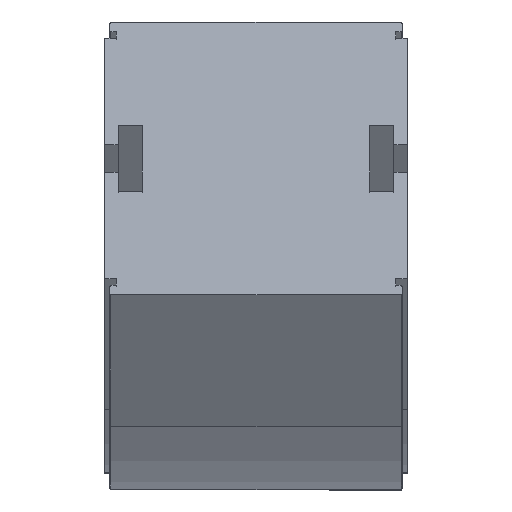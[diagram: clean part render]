
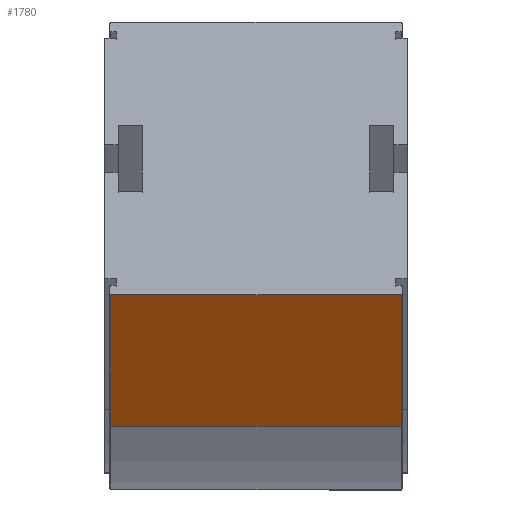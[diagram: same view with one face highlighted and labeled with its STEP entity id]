
A CAD part, top view. The second image highlights one B-rep face of the part: STEP entity #1780.
In plain terms, the highlighted planar face has unit normal (0, -0.966, 0.259).
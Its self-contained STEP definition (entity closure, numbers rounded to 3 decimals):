
#27 = EDGE_LOOP ( 'NONE', ( #1406, #1407, #1408, #1409 ) ) ;
#77 = VERTEX_POINT ( 'NONE', #1844 ) ;
#111 = VERTEX_POINT ( 'NONE', #1878 ) ;
#416 = CARTESIAN_POINT ( 'NONE',  ( -43.15, -23.532, 290.28 ) ) ;
#418 = DIRECTION ( 'NONE',  ( 0., 0.259, 0.966 ) ) ;
#442 = CARTESIAN_POINT ( 'NONE',  ( -43.15, -23.532, 290.28 ) ) ;
#443 = DIRECTION ( 'NONE',  ( -1., 0., 0. ) ) ;
#456 = CARTESIAN_POINT ( 'NONE',  ( -43.15, 15.291, 435.169 ) ) ;
#458 = DIRECTION ( 'NONE',  ( -1., 0., 0. ) ) ;
#473 = CARTESIAN_POINT ( 'NONE',  ( 43.15, -23.532, 290.28 ) ) ;
#474 = DIRECTION ( 'NONE',  ( 0., 0.259, 0.966 ) ) ;
#728 = VERTEX_POINT ( 'NONE', #1987 ) ;
#731 = VERTEX_POINT ( 'NONE', #1990 ) ;
#1027 = EDGE_CURVE ( 'NONE', #111, #728, #2508, .T. ) ;
#1040 = EDGE_CURVE ( 'NONE', #77, #111, #2482, .T. ) ;
#1047 = EDGE_CURVE ( 'NONE', #731, #728, #2468, .T. ) ;
#1056 = EDGE_CURVE ( 'NONE', #77, #731, #2450, .T. ) ;
#1406 = ORIENTED_EDGE ( 'NONE', *, *, #1040, .F. ) ;
#1407 = ORIENTED_EDGE ( 'NONE', *, *, #1056, .T. ) ;
#1408 = ORIENTED_EDGE ( 'NONE', *, *, #1047, .T. ) ;
#1409 = ORIENTED_EDGE ( 'NONE', *, *, #1027, .F. ) ;
#1780 = ADVANCED_FACE ( 'NONE', ( #2365 ), #2987, .F. ) ;
#1844 = CARTESIAN_POINT ( 'NONE',  ( 43.15, -23.532, 290.28 ) ) ;
#1878 = CARTESIAN_POINT ( 'NONE',  ( -43.15, -23.532, 290.28 ) ) ;
#1987 = CARTESIAN_POINT ( 'NONE',  ( -43.15, 15.291, 435.169 ) ) ;
#1990 = CARTESIAN_POINT ( 'NONE',  ( 43.15, 15.291, 435.169 ) ) ;
#2365 = FACE_OUTER_BOUND ( 'NONE', #27, .T. ) ;
#2447 = VECTOR ( 'NONE', #474, 1000. ) ;
#2450 = LINE ( 'NONE', #473, #2447 ) ;
#2465 = VECTOR ( 'NONE', #458, 1000. ) ;
#2468 = LINE ( 'NONE', #456, #2465 ) ;
#2479 = VECTOR ( 'NONE', #443, 1000. ) ;
#2482 = LINE ( 'NONE', #442, #2479 ) ;
#2505 = VECTOR ( 'NONE', #418, 1000. ) ;
#2508 = LINE ( 'NONE', #416, #2505 ) ;
#2882 = AXIS2_PLACEMENT_3D ( 'NONE', #2988, #2994, #2995 ) ;
#2987 = PLANE ( 'NONE',  #2882 ) ;
#2988 = CARTESIAN_POINT ( 'NONE',  ( -43.15, -23.532, 290.28 ) ) ;
#2994 = DIRECTION ( 'NONE',  ( 0., 0.966, -0.259 ) ) ;
#2995 = DIRECTION ( 'NONE',  ( 0., 0.259, 0.966 ) ) ;
